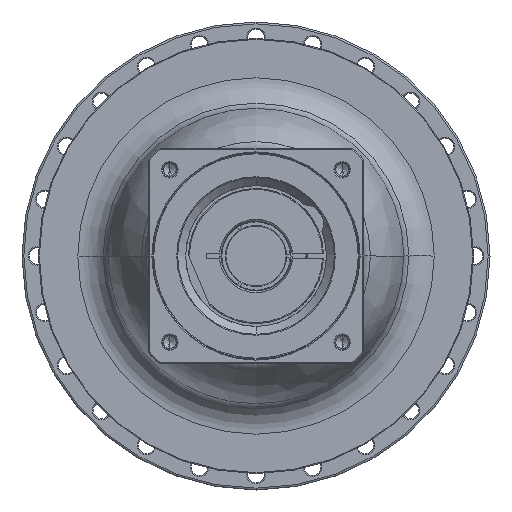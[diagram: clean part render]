
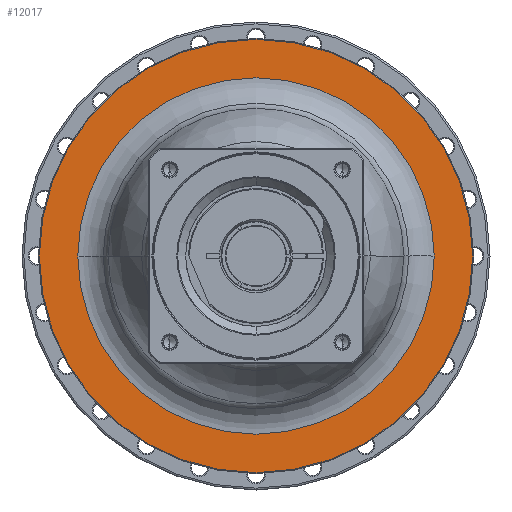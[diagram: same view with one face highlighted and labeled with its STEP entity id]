
A CAD part, left-side view. The second image highlights one B-rep face of the part: STEP entity #12017.
In plain terms, the highlighted planar face has unit normal (-1, 0, 0) as drawn and (1, 0, 0) by its records, which use the part's own axes.
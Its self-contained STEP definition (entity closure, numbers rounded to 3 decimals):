
#11520=CARTESIAN_POINT('',(-67.,0.,0.));
#11521=DIRECTION('',(-1.,0.,0.));
#11522=DIRECTION('',(0.,1.,0.));
#11523=AXIS2_PLACEMENT_3D('',#11520,#11521,#11522);
#11535=CARTESIAN_POINT('',(-67.,0.,0.));
#11536=DIRECTION('',(1.,0.,0.));
#11537=DIRECTION('',(0.,1.,0.));
#11538=AXIS2_PLACEMENT_3D('',#11535,#11536,#11537);
#11540=CARTESIAN_POINT('',(-67.,0.,0.));
#11541=DIRECTION('',(-1.,0.,0.));
#11542=DIRECTION('',(0.,-1.,0.));
#11543=AXIS2_PLACEMENT_3D('',#11540,#11541,#11542);
#11545=CARTESIAN_POINT('',(-67.,0.,0.));
#11546=DIRECTION('',(-1.,0.,0.));
#11547=DIRECTION('',(0.,1.,0.));
#11548=AXIS2_PLACEMENT_3D('',#11545,#11546,#11547);
#11670=CARTESIAN_POINT('',(-67.,-115.5,0.));
#11671=CARTESIAN_POINT('',(-67.,115.5,0.));
#11672=VERTEX_POINT('',#11670);
#11673=VERTEX_POINT('',#11671);
#11694=CARTESIAN_POINT('',(-67.,95.,0.));
#11695=CARTESIAN_POINT('',(-67.,-95.,0.));
#11696=VERTEX_POINT('',#11694);
#11697=VERTEX_POINT('',#11695);
#12002=CARTESIAN_POINT('',(-67.,0.,0.));
#12003=DIRECTION('',(1.,0.,0.));
#12004=DIRECTION('',(0.,-1.,0.));
#12005=AXIS2_PLACEMENT_3D('',#12002,#12003,#12004);
#12006=PLANE('',#12005);
#12008=ORIENTED_EDGE('',*,*,#12007,.T.);
#12010=ORIENTED_EDGE('',*,*,#12009,.T.);
#12011=EDGE_LOOP('',(#12008,#12010));
#12012=FACE_OUTER_BOUND('',#12011,.F.);
#12013=ORIENTED_EDGE('',*,*,#11996,.T.);
#12014=ORIENTED_EDGE('',*,*,#11982,.F.);
#12015=EDGE_LOOP('',(#12013,#12014));
#12016=FACE_BOUND('',#12015,.F.);
#12017=ADVANCED_FACE('',(#12012,#12016),#12006,.T.);
#11524=CIRCLE('',#11523,95.);
#11539=CIRCLE('',#11538,95.);
#11544=CIRCLE('',#11543,115.5);
#11549=CIRCLE('',#11548,115.5);
#11982=EDGE_CURVE('',#11696,#11697,#11524,.T.);
#11996=EDGE_CURVE('',#11696,#11697,#11539,.T.);
#12007=EDGE_CURVE('',#11672,#11673,#11544,.T.);
#12009=EDGE_CURVE('',#11673,#11672,#11549,.T.);
